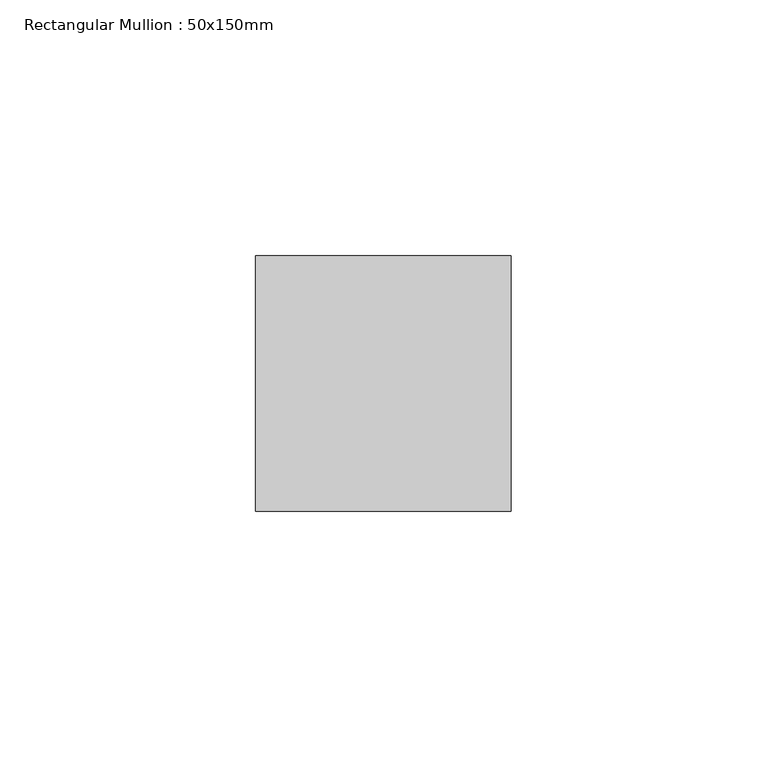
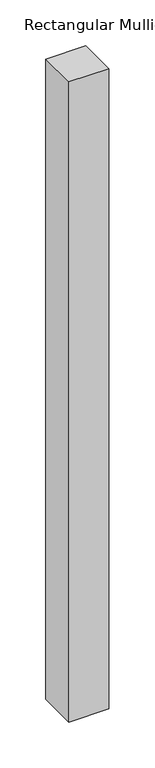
"""IFC4 building model written with IfcOpenShell, lengths in millimetres: member geometry, Rectangular Mullion : 50x150mm."""

import ifcopenshell
import ifcopenshell.guid

model = None  # the IFC model being written
_history = None  # IfcOwnerHistory: only IFC2X3 demands one
_inside = {}  # id of a spatial element -> (the spatial element, [elements in it])
_under = {}  # id of a project, library or spatial element -> (it, [spatial elements below it])
_declared = {}  # id of a project -> (the project, [libraries it declares])
_typed = {}  # id of a type object -> (the type object, [elements of that type])
_made_of = {}  # id of a material, layer set ... -> (it, [elements and type objects made of it])


def new_model(schema):
    """Start an empty IFC model of exactly this schema.

    Asked for "IFC4X3", IfcOpenShell would pick the latest addendum, in which some entities
    have other attributes; the version numbers below select the first issue.
    IFC2X3 requires an IfcOwnerHistory on every rooted entity: one is made here for all.
    """
    global model, _history
    if schema == "IFC4X3":
        model = ifcopenshell.file(schema_version=(4, 3, 0, 0))
    else:
        model = ifcopenshell.file(schema=schema)
    _inside.clear()
    _under.clear()
    _declared.clear()
    _typed.clear()
    _made_of.clear()
    _history = None
    if model.schema == "IFC2X3":
        org = make("IfcOrganization", Name="unknown")
        user = make(
            "IfcPersonAndOrganization",
            ThePerson=make("IfcPerson", FamilyName="unknown"),
            TheOrganization=org,
        )
        app = make(
            "IfcApplication",
            ApplicationDeveloper=org,
            Version="unknown",
            ApplicationFullName="unknown",
            ApplicationIdentifier="unknown",
        )
        _history = make(
            "IfcOwnerHistory",
            OwningUser=user,
            OwningApplication=app,
            ChangeAction="ADDED",
            CreationDate=0,
        )
    return model


def make(cls, **values):
    """One entity of the class cls with the attributes given. An attribute that is None is left unset."""
    return model.create_entity(
        cls, **{name: value for name, value in values.items() if value is not None}
    )


def rooted(cls, **values):
    """An entity with a GlobalId (a new one), such as an element, a storey or a relation."""
    return make(cls, GlobalId=ifcopenshell.guid.new(), OwnerHistory=_history, **values)


def si_unit(unit_type, name, prefix=None):
    """IfcSIUnit, for example si_unit("LENGTHUNIT", "METRE", prefix="MILLI")."""
    return make("IfcSIUnit", UnitType=unit_type, Prefix=prefix, Name=name)


def assignment(units):
    """IfcUnitAssignment: the units of a project."""
    return None if units is None else make("IfcUnitAssignment", Units=units)


def point(xyz):
    """IfcCartesianPoint."""
    return None if xyz is None else make("IfcCartesianPoint", Coordinates=xyz)


def direction(xyz):
    """IfcDirection."""
    return None if xyz is None else make("IfcDirection", DirectionRatios=xyz)


def frame(location, z_axis=None, x_axis=None):
    """IfcAxis2Placement3D, a coordinate frame: its origin and axes. An axis left out is left unset."""
    return make(
        "IfcAxis2Placement3D",
        Location=point(location),
        Axis=direction(z_axis),
        RefDirection=direction(x_axis),
    )


def origin():
    """The frame at (0, 0, 0) with its axes left unset."""
    return frame((0.0, 0.0, 0.0))


def place(relative_to, where):
    """IfcLocalPlacement: puts the frame where relative to a parent placement (None: the world)."""
    return make(
        "IfcLocalPlacement", PlacementRelTo=relative_to, RelativePlacement=where
    )


def context(
    kind, dimensions, precision=None, world=None, true_north=None, identifier=None
):
    """IfcGeometricRepresentationContext, for example the 3D "Model" context."""
    return make(
        "IfcGeometricRepresentationContext",
        ContextIdentifier=identifier,
        ContextType=kind,
        CoordinateSpaceDimension=dimensions,
        Precision=precision,
        WorldCoordinateSystem=world,
        TrueNorth=true_north,
    )


def project(units=None, contexts=None):
    """IfcProject with its units and contexts."""
    return rooted(
        "IfcProject",
        Name="project",
        RepresentationContexts=contexts,
        UnitsInContext=assignment(units),
    )


def spatial(cls, under=None, at=None, **own):
    """A site, building, storey or space (cls), placed at a placement, below another one or the project."""
    s = rooted(cls, ObjectPlacement=at, **own)
    if under is not None:
        _under.setdefault(under.id(), (under, []))[1].append(s)
    return s


def polyline(points):
    """IfcPolyline through the points."""
    return make("IfcPolyline", Points=[point(p) for p in points])


def outline(outer, holes=None, kind="AREA"):
    """IfcArbitraryClosedProfileDef: a profile drawn as a closed curve; with holes, ...WithVoids."""
    if holes is None:
        return make("IfcArbitraryClosedProfileDef", ProfileType=kind, OuterCurve=outer)
    return make(
        "IfcArbitraryProfileDefWithVoids",
        ProfileType=kind,
        OuterCurve=outer,
        InnerCurves=holes,
    )


def extrude(swept, where, along, depth):
    """IfcExtrudedAreaSolid: the profile swept, set in the frame where, extruded along a direction by depth."""
    return make(
        "IfcExtrudedAreaSolid",
        SweptArea=swept,
        Position=where,
        ExtrudedDirection=direction(along),
        Depth=depth,
    )


def shape(context_of_items, identifier, shape_type, items):
    """IfcShapeRepresentation: the items that make up one representation, for example the "Body"."""
    return make(
        "IfcShapeRepresentation",
        ContextOfItems=context_of_items,
        RepresentationIdentifier=identifier,
        RepresentationType=shape_type,
        Items=items,
    )


def source(mapping_origin, context_of_items, identifier, shape_type, items):
    """IfcRepresentationMap: a shape defined once, which mapped items show again and again."""
    return make(
        "IfcRepresentationMap",
        MappingOrigin=mapping_origin,
        MappedRepresentation=shape(context_of_items, identifier, shape_type, items),
    )


def transform(
    local_origin,
    x_axis=None,
    y_axis=None,
    z_axis=None,
    scale=None,
    scale2=None,
    scale3=None,
    uniform=True,
):
    """IfcCartesianTransformationOperator3D, or its non-uniform kind. x_axis, y_axis, z_axis: its Axis1, 2, 3."""
    if uniform:
        return make(
            "IfcCartesianTransformationOperator3D",
            Axis1=direction(x_axis),
            Axis2=direction(y_axis),
            LocalOrigin=point(local_origin),
            Scale=scale,
            Axis3=direction(z_axis),
        )
    return make(
        "IfcCartesianTransformationOperator3DnonUniform",
        Axis1=direction(x_axis),
        Axis2=direction(y_axis),
        LocalOrigin=point(local_origin),
        Scale=scale,
        Axis3=direction(z_axis),
        Scale2=scale2,
        Scale3=scale3,
    )


def mapped(mapping_source, mapping_target):
    """IfcMappedItem: shows the shape of a source again, moved by a transform."""
    return make(
        "IfcMappedItem", MappingSource=mapping_source, MappingTarget=mapping_target
    )


def made_of(thing, what):
    """Note that an element or type object is made of a material, layer set ...; save() writes the relation."""
    if what is not None:
        _made_of.setdefault(what.id(), (what, []))[1].append(thing)
    return thing


def element(
    cls,
    number,
    at=None,
    inside=None,
    cuts=None,
    type_object=None,
    material=None,
    context=None,
    identifier="Body",
    shape_type=None,
    held_by="IfcProductDefinitionShape",
    body=None,
    shapes=None,
    **own,
):
    """One element of the class cls, such as IfcWall. Its Tag is "e" and its number.

    at: its placement. inside: the storey or other place that contains it. cuts: it is an
    opening in that element (IfcRelVoidsElement). A single representation is given by context,
    identifier, shape_type and body (its items); several are given by shapes. held_by: the class
    of the entity that holds the representations. save() writes the other relations.
    """
    e = rooted(cls, Tag="e%d" % number, ObjectPlacement=at, **own)
    if body is not None:
        shapes = [shape(context, identifier, shape_type, body)]
    if shapes is not None:
        e.Representation = make(held_by, Representations=shapes)
    if inside is not None:
        _inside.setdefault(inside.id(), (inside, []))[1].append(e)
    if cuts is not None:
        rooted(
            "IfcRelVoidsElement", RelatingBuildingElement=cuts, RelatedOpeningElement=e
        )
    if type_object is not None:
        _typed.setdefault(type_object.id(), (type_object, []))[1].append(e)
    return made_of(e, material)


def aggregate(whole, parts):
    """IfcRelAggregates: a whole, such as a stair, and the parts it consists of."""
    return rooted("IfcRelAggregates", RelatingObject=whole, RelatedObjects=parts)


def save(model, path):
    """Write the relations noted so far, then the file.

    IfcRelAggregates (storeys below a building ...), IfcRelContainedInSpatialStructure (elements
    in a storey), IfcRelDefinesByType, IfcRelAssociatesMaterial and IfcRelDeclares: one each for
    every whole, place, type object, material and project.
    """
    for whole, parts in _under.values():
        aggregate(whole, parts)
    for where, things in _inside.values():
        rooted(
            "IfcRelContainedInSpatialStructure",
            RelatedElements=things,
            RelatingStructure=where,
        )
    for kind, things in _typed.values():
        rooted("IfcRelDefinesByType", RelatedObjects=things, RelatingType=kind)
    for what, things in _made_of.values():
        rooted("IfcRelAssociatesMaterial", RelatedObjects=things, RelatingMaterial=what)
    for by, libraries in _declared.values():
        rooted("IfcRelDeclares", RelatingContext=by, RelatedDefinitions=libraries)
    model.write(path)


def rectangular_mullion_50x150mm_51ed58aa(model_context):
    return source(origin(), model_context, "Body", "SweptSolid", [
        extrude(outline(polyline([(25.0, 25.0), (25.0, -25.0), (-25.0, -25.0), (-25.0, 25.0), (25.0, 25.0)])), frame((0.0, 0.0, -850.0), z_axis=(0.0, 0.0, 1.0), x_axis=(1.0, 0.0, 0.0)), (0.0, 0.0, 1.0), 850.0),
    ])


if __name__ == "__main__":
    model = new_model("IFC4")
    model_context = context("Model", 3, world=origin())
    ifc_project = project(units=[si_unit("LENGTHUNIT", "METRE", prefix="MILLI")], contexts=[model_context])
    site = spatial("IfcSite", under=ifc_project)
    building = spatial("IfcBuilding", under=site)
    placement = place(None, origin())
    rectangular_mullion_50x150mm_shape = rectangular_mullion_50x150mm_51ed58aa(model_context)
    element("IfcMember", 1, ObjectType="Rectangular Mullion : 50x150mm", at=placement, inside=building, context=model_context, shape_type="MappedRepresentation", body=[
        mapped(rectangular_mullion_50x150mm_shape, transform((0.0, 0.0, 0.0), x_axis=(1.0, 0.0, 0.0), y_axis=(0.0, 1.0, 0.0), z_axis=(0.0, 0.0, 1.0))),
    ])
    save(model, "model.ifc")
